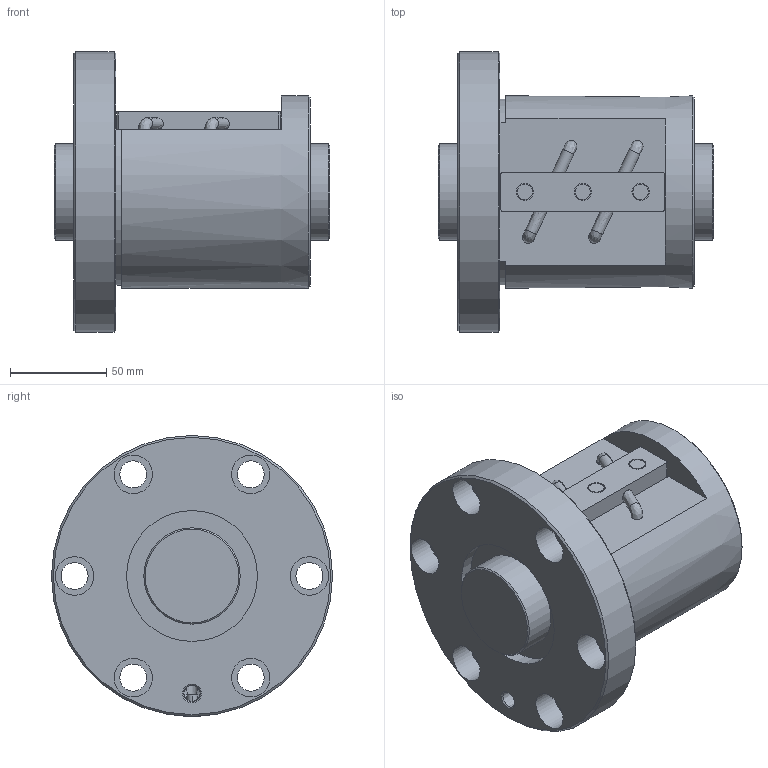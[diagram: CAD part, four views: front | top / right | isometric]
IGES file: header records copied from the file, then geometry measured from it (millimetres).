
Start section: Data from Parasolid IGES Translator 26.0.171, Copyright(c) 2006 Siemens PLM Software. All Rights Reserved.
Global section: file name: BNF5012V-5RRG1+143LC0_000_rev.igs; native system: By Siemens PLM Incorporated; preprocessor: XPlus GENERIC/IGES 26.0.171; author: Noname; organization: Noname; date: 20240806.090955; units: millimetre
Bounding box: 143 x 146 x 146 mm (x, y, z)
Surface area: 128780.1 mm2 (no closed solid volume)
Topology: 0 solids, 0 shells, 80 faces, 378 edges, 336 vertices
Faces by surface type: revolution 51, extrusion 29
